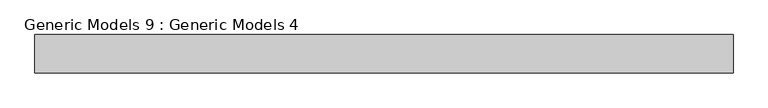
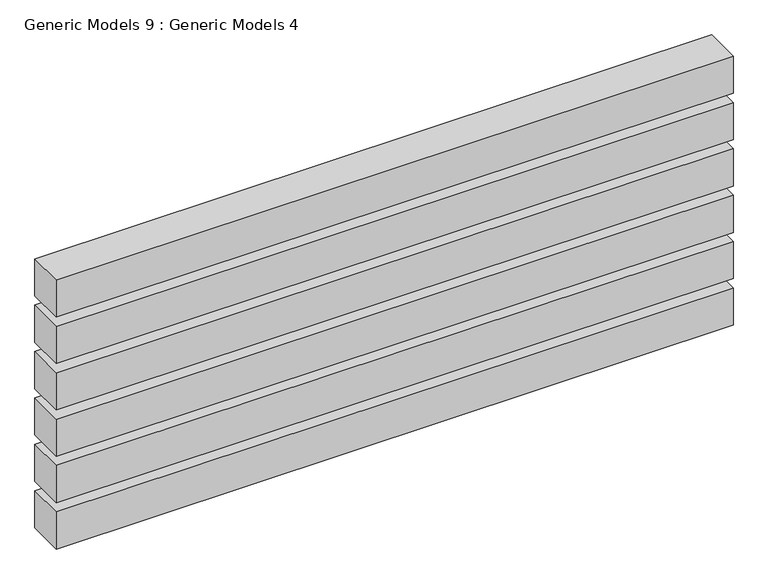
"""IFC4 building model written with IfcOpenShell, lengths in millimetres: proxy geometry, Generic Models 9 : Generic Models 4."""

from ifc_helpers import new_model, si_unit, frame, origin, place, context, project, spatial, polyline, outline, extrude, source, transform, mapped, element, save


def generic_models_9_generic_models_4_810ed2ac(model_context):
    return source(origin(), model_context, "Body", "SweptSolid", [
        extrude(outline(polyline([(-11118.5171482, -4132.9830183), (-11118.5171482, -4047.6885624), (-9559.8942784, -4047.6885624), (-9559.8942784, -4132.9830183), (-11118.5171482, -4132.9830183)])), frame((0.0, 0.0, 9113.0147425), z_axis=(0.0, 0.0, 1.0), x_axis=(1.0, 0.0, 0.0)), (0.0, 0.0, 1.0), 90.4654609),
        extrude(outline(polyline([(-11118.5171482, -4132.9830183), (-11118.5171482, -4047.6885624), (-9559.8942784, -4047.6885624), (-9559.8942784, -4132.9830183), (-11118.5171482, -4132.9830183)])), frame((0.0, 0.0, 9226.029485), z_axis=(0.0, 0.0, 1.0), x_axis=(1.0, 0.0, 0.0)), (0.0, 0.0, 1.0), 90.4654609),
        extrude(outline(polyline([(-11118.5171482, -4132.9830183), (-11118.5171482, -4047.6885624), (-9559.8942784, -4047.6885624), (-9559.8942784, -4132.9830183), (-11118.5171482, -4132.9830183)])), frame((0.0, 0.0, 9339.0442274), z_axis=(0.0, 0.0, 1.0), x_axis=(1.0, 0.0, 0.0)), (0.0, 0.0, 1.0), 90.4654609),
        extrude(outline(polyline([(-11118.5171482, -4132.9830183), (-11118.5171482, -4047.6885624), (-9559.8942784, -4047.6885624), (-9559.8942784, -4132.9830183), (-11118.5171482, -4132.9830183)])), frame((0.0, 0.0, 9452.0589699), z_axis=(0.0, 0.0, 1.0), x_axis=(1.0, 0.0, 0.0)), (0.0, 0.0, 1.0), 90.4654609),
        extrude(outline(polyline([(-11118.5171482, -4132.9830183), (-11118.5171482, -4047.6885624), (-9559.8942784, -4047.6885624), (-9559.8942784, -4132.9830183), (-11118.5171482, -4132.9830183)])), frame((0.0, 0.0, 9000.0), z_axis=(0.0, 0.0, 1.0), x_axis=(1.0, 0.0, 0.0)), (0.0, 0.0, 1.0), 90.4654609),
        extrude(outline(polyline([(-11118.5171482, -4132.9830183), (-11118.5171482, -4047.6885624), (-9559.8942784, -4047.6885624), (-9559.8942784, -4132.9830183), (-11118.5171482, -4132.9830183)])), frame((0.0, 0.0, 9565.0737124), z_axis=(0.0, 0.0, 1.0), x_axis=(1.0, 0.0, 0.0)), (0.0, 0.0, 1.0), 90.4654609),
    ])


if __name__ == "__main__":
    model = new_model("IFC4")
    model_context = context("Model", 3, world=origin())
    ifc_project = project(units=[si_unit("LENGTHUNIT", "METRE", prefix="MILLI")], contexts=[model_context])
    site = spatial("IfcSite", under=ifc_project)
    building = spatial("IfcBuilding", under=site)
    placement = place(None, origin())
    generic_models_9_generic_models_4_shape = generic_models_9_generic_models_4_810ed2ac(model_context)
    element("IfcBuildingElementProxy", 1, Name="Generic Models 9 : Generic Models 4", ObjectType="Generic Models 9 : Generic Models 4", at=placement, inside=building, context=model_context, shape_type="MappedRepresentation", body=[
        mapped(generic_models_9_generic_models_4_shape, transform((0.0, 0.0, 0.0), x_axis=(1.0, 0.0, 0.0), y_axis=(0.0, 1.0, 0.0), z_axis=(0.0, 0.0, 1.0))),
    ])
    save(model, "model.ifc")
